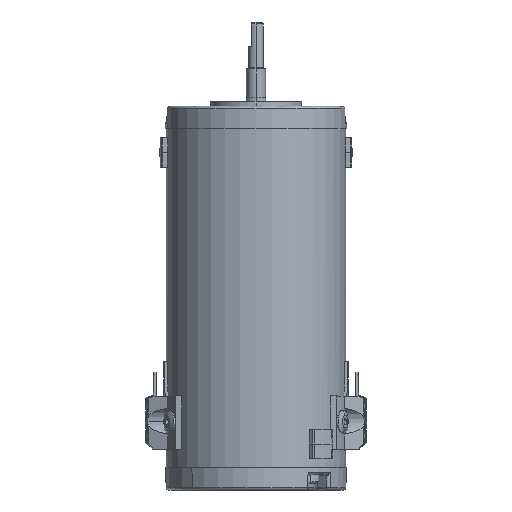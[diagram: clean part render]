
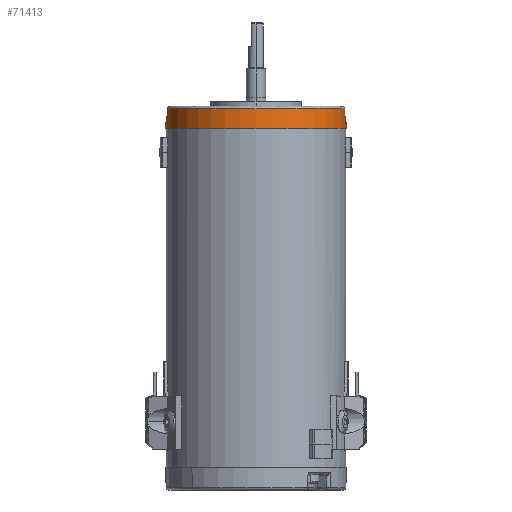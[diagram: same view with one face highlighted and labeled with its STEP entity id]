
A CAD part, left-side view. The second image highlights one B-rep face of the part: STEP entity #71413.
In plain terms, the highlighted conical face has half-angle 1 degrees and reference radius 36.66 mm.
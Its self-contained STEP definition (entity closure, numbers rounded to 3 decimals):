
#754 = CARTESIAN_POINT ( 'NONE',  ( 101.834, 54.495, 211.28 ) ) ;
#1337 = CONICAL_SURFACE ( 'NONE', #65997, 36.66, 0.017 ) ;
#2131 = LINE ( 'NONE', #44756, #57039 ) ;
#3360 = VERTEX_POINT ( 'NONE', #41644 ) ;
#3369 = EDGE_CURVE ( 'NONE', #35808, #22886, #57613, .T. ) ;
#4773 = ORIENTED_EDGE ( 'NONE', *, *, #3369, .T. ) ;
#4859 = FACE_OUTER_BOUND ( 'NONE', #37443, .T. ) ;
#4944 = CARTESIAN_POINT ( 'NONE',  ( 101.906, 126.563, 207.28 ) ) ;
#4974 = EDGE_CURVE ( 'NONE', #39887, #6858, #66432, .T. ) ;
#6858 = VERTEX_POINT ( 'NONE', #7025 ) ;
#7025 = CARTESIAN_POINT ( 'NONE',  ( 101.906, 126.563, 207.28 ) ) ;
#7195 = ORIENTED_EDGE ( 'NONE', *, *, #62247, .T. ) ;
#8553 = DIRECTION ( 'NONE',  ( 0., 0., 1. ) ) ;
#10060 = DIRECTION ( 'NONE',  ( 1., 0., 0. ) ) ;
#11895 = DIRECTION ( 'NONE',  ( 0., -0.017, -1. ) ) ;
#12970 = CARTESIAN_POINT ( 'NONE',  ( 108.206, 127.109, 207.28 ) ) ;
#13256 = ORIENTED_EDGE ( 'NONE', *, *, #23258, .T. ) ;
#13403 = CIRCLE ( 'NONE', #31980, 36.622 ) ;
#14079 = EDGE_CURVE ( 'NONE', #3360, #51099, #58540, .T. ) ;
#14965 = CARTESIAN_POINT ( 'NONE',  ( 101.798, 126.438, 213.28 ) ) ;
#16629 = CARTESIAN_POINT ( 'NONE',  ( 101.798, 126.438, 213.28 ) ) ;
#18179 = B_SPLINE_CURVE_WITH_KNOTS ( 'NONE', 3,
 ( #28649, #66229, #754, #61178 ),
 .UNSPECIFIED., .F., .F.,
 ( 4, 4 ),
 ( 0., 1. ),
 .UNSPECIFIED. ) ;
#21159 = EDGE_CURVE ( 'NONE', #6858, #40838, #13403, .T. ) ;
#22886 = VERTEX_POINT ( 'NONE', #65582 ) ;
#23242 = DIRECTION ( 'NONE',  ( 1., 0., 0. ) ) ;
#23258 = EDGE_CURVE ( 'NONE', #51099, #29338, #18179, .T. ) ;
#25978 = CARTESIAN_POINT ( 'NONE',  ( 108.206, 90.487, 207.28 ) ) ;
#28649 = CARTESIAN_POINT ( 'NONE',  ( 101.906, 54.411, 207.28 ) ) ;
#29338 = VERTEX_POINT ( 'NONE', #67132 ) ;
#30834 = CARTESIAN_POINT ( 'NONE',  ( 108.206, 127.147, 205.113 ) ) ;
#31902 = ORIENTED_EDGE ( 'NONE', *, *, #4974, .T. ) ;
#31980 = AXIS2_PLACEMENT_3D ( 'NONE', #39155, #40212, #23242 ) ;
#32089 = AXIS2_PLACEMENT_3D ( 'NONE', #44163, #8553, #48497 ) ;
#33029 = CARTESIAN_POINT ( 'NONE',  ( 108.206, 90.487, 205.113 ) ) ;
#35119 = ORIENTED_EDGE ( 'NONE', *, *, #35223, .F. ) ;
#35223 = EDGE_CURVE ( 'NONE', #3360, #22886, #2131, .T. ) ;
#35808 = VERTEX_POINT ( 'NONE', #40611 ) ;
#37443 = EDGE_LOOP ( 'NONE', ( #35119, #39176, #13256, #48316, #31902, #44988, #7195, #4773 ) ) ;
#39023 = CIRCLE ( 'NONE', #32089, 36.517 ) ;
#39155 = CARTESIAN_POINT ( 'NONE',  ( 108.206, 90.487, 207.28 ) ) ;
#39176 = ORIENTED_EDGE ( 'NONE', *, *, #14079, .T. ) ;
#39485 = DIRECTION ( 'NONE',  ( 0., 1., 0. ) ) ;
#39855 = EDGE_CURVE ( 'NONE', #39887, #29338, #39023, .T. ) ;
#39887 = VERTEX_POINT ( 'NONE', #16629 ) ;
#40212 = DIRECTION ( 'NONE',  ( 0., 0., -1. ) ) ;
#40611 = CARTESIAN_POINT ( 'NONE',  ( 108.206, 127.147, 205.113 ) ) ;
#40838 = VERTEX_POINT ( 'NONE', #12970 ) ;
#41644 = CARTESIAN_POINT ( 'NONE',  ( 108.206, 53.865, 207.28 ) ) ;
#43041 = LINE ( 'NONE', #30834, #43714 ) ;
#43714 = VECTOR ( 'NONE', #69439, 1000. ) ;
#44163 = CARTESIAN_POINT ( 'NONE',  ( 108.206, 90.487, 213.28 ) ) ;
#44756 = CARTESIAN_POINT ( 'NONE',  ( 108.206, 53.828, 205.113 ) ) ;
#44988 = ORIENTED_EDGE ( 'NONE', *, *, #21159, .T. ) ;
#47062 = CARTESIAN_POINT ( 'NONE',  ( 108.206, 90.487, 205.113 ) ) ;
#48316 = ORIENTED_EDGE ( 'NONE', *, *, #39855, .F. ) ;
#48497 = DIRECTION ( 'NONE',  ( 1., 0., 0. ) ) ;
#51099 = VERTEX_POINT ( 'NONE', #65449 ) ;
#52777 = AXIS2_PLACEMENT_3D ( 'NONE', #25978, #53800, #10060 ) ;
#53800 = DIRECTION ( 'NONE',  ( 0., 0., -1. ) ) ;
#57039 = VECTOR ( 'NONE', #11895, 1000. ) ;
#57613 = CIRCLE ( 'NONE', #61079, 36.66 ) ;
#58540 = CIRCLE ( 'NONE', #52777, 36.622 ) ;
#60232 = CARTESIAN_POINT ( 'NONE',  ( 101.87, 126.521, 209.28 ) ) ;
#61079 = AXIS2_PLACEMENT_3D ( 'NONE', #47062, #68753, #69114 ) ;
#61178 = CARTESIAN_POINT ( 'NONE',  ( 101.798, 54.537, 213.28 ) ) ;
#61564 = DIRECTION ( 'NONE',  ( 0., 0., -1. ) ) ;
#62247 = EDGE_CURVE ( 'NONE', #40838, #35808, #43041, .T. ) ;
#65449 = CARTESIAN_POINT ( 'NONE',  ( 101.906, 54.411, 207.28 ) ) ;
#65582 = CARTESIAN_POINT ( 'NONE',  ( 108.206, 53.828, 205.113 ) ) ;
#65997 = AXIS2_PLACEMENT_3D ( 'NONE', #33029, #61564, #39485 ) ;
#66229 = CARTESIAN_POINT ( 'NONE',  ( 101.87, 54.453, 209.28 ) ) ;
#66432 = B_SPLINE_CURVE_WITH_KNOTS ( 'NONE', 3,
 ( #14965, #71038, #60232, #4944 ),
 .UNSPECIFIED., .F., .F.,
 ( 4, 4 ),
 ( 0., 1. ),
 .UNSPECIFIED. ) ;
#67132 = CARTESIAN_POINT ( 'NONE',  ( 101.798, 54.537, 213.28 ) ) ;
#68753 = DIRECTION ( 'NONE',  ( 0., 0., 1. ) ) ;
#69114 = DIRECTION ( 'NONE',  ( 0., 1., 0. ) ) ;
#69439 = DIRECTION ( 'NONE',  ( 0., 0.017, -1. ) ) ;
#71038 = CARTESIAN_POINT ( 'NONE',  ( 101.834, 126.48, 211.28 ) ) ;
#71413 = ADVANCED_FACE ( 'NONE', ( #4859 ), #1337, .T. ) ;
